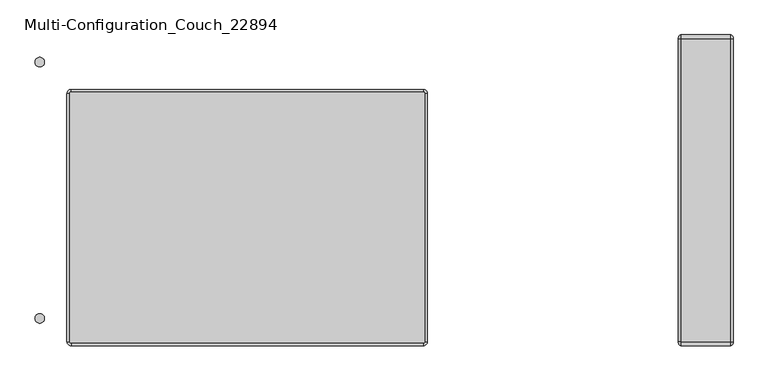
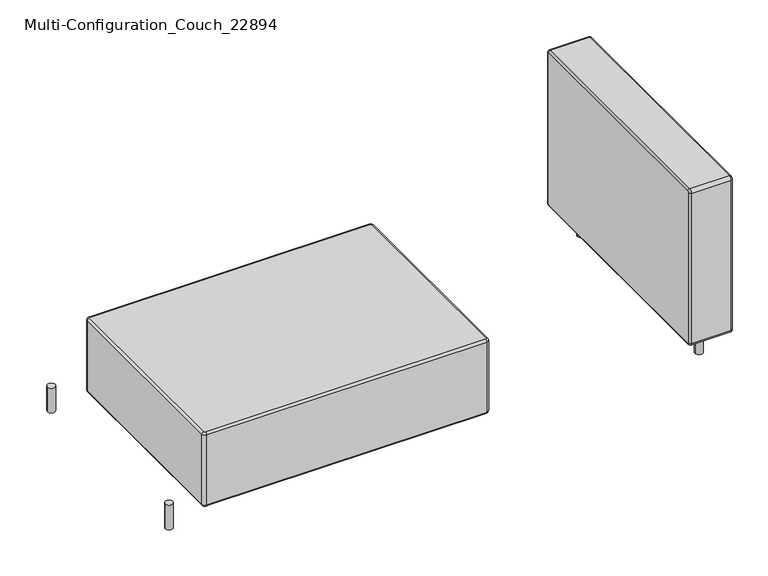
"""IFC4 building model written with IfcOpenShell, lengths in millimetres: furniture geometry, Multi-Configuration_Couch_22894 : Love Seat 2."""

from ifc_helpers import new_model, si_unit, point, frame, frame_2d, origin, origin_with_axes, place, context, project, spatial, circle_curve, ellipse_curve, trimmed, segment, composite_curve, outline, extrude, source, transform, mapped, element, save
from ifc_brep_helpers import plane_surface, cylinder_surface, revolved_surface, advanced_brep


def multi_configuration_couch_22894_094c0ce7(model_context):
    return source(origin(), model_context, "Body", "SolidModel", [
        advanced_brep(
        [(1284.5737705, 822.3770492, 549.275), (1284.5737705, 822.3770492, 85.725), (1284.5737705, 819.2020492, 82.55), (1284.5737705, 114.3520492, 82.55), (1284.5737705, 111.1770492, 85.725), (1284.5737705, 111.1770492, 549.275), (1284.5737705, 114.3520492, 552.45), (1284.5737705, 819.2020492, 552.45), (1411.5737705, 822.3770492, 85.725), (1411.5737705, 822.3770492, 549.275), (1411.5737705, 819.2020492, 552.45), (1411.5737705, 114.3520492, 552.45), (1411.5737705, 111.1770492, 549.275), (1411.5737705, 111.1770492, 85.725), (1411.5737705, 114.3520492, 82.55), (1411.5737705, 819.2020492, 82.55), (1290.9237705, 819.2020492, 558.8), (1290.9237705, 114.3520492, 558.8), (1405.2237705, 114.3520492, 558.8), (1405.2237705, 819.2020492, 558.8), (1290.9237705, 828.7270492, 85.725), (1290.9237705, 828.7270492, 549.275), (1405.2237705, 828.7270492, 549.275), (1405.2237705, 828.7270492, 85.725), (1290.9237705, 114.3520492, 76.2), (1290.9237705, 819.2020492, 76.2), (1405.2237705, 819.2020492, 76.2), (1405.2237705, 114.3520492, 76.2), (1290.9237705, 104.8270492, 549.275), (1290.9237705, 104.8270492, 85.725), (1405.2237705, 104.8270492, 85.725), (1405.2237705, 104.8270492, 549.275)],
        [
            (0, 1),
            (1, 2, circle_curve(frame((1284.5737705, 819.2020492, 85.725), z_axis=(-1.0, 0.0, 0.0), x_axis=(0.0, 1.0, 0.0)), 3.175)),
            (2, 3),
            (3, 4, circle_curve(frame((1284.5737705, 114.3520492, 85.725), z_axis=(-1.0, 0.0, 0.0), x_axis=(0.0, 0.0, -1.0)), 3.175)),
            (4, 5),
            (5, 6, circle_curve(frame((1284.5737705, 114.3520492, 549.275), z_axis=(-1.0, 0.0, 0.0), x_axis=(0.0, -1.0, 0.0)), 3.175)),
            (6, 7),
            (7, 0, circle_curve(frame((1284.5737705, 819.2020492, 549.275), z_axis=(-1.0, 0.0, 0.0), x_axis=(0.0, 0.0, 1.0)), 3.175)),
            (8, 9),
            (9, 10, circle_curve(frame((1411.5737705, 819.2020492, 549.275), z_axis=(1.0, 0.0, 0.0), x_axis=(0.0, 0.0, 1.0)), 3.175)),
            (10, 11),
            (11, 12, circle_curve(frame((1411.5737705, 114.3520492, 549.275), z_axis=(1.0, 0.0, 0.0), x_axis=(0.0, -1.0, 0.0)), 3.175)),
            (12, 13),
            (13, 14, circle_curve(frame((1411.5737705, 114.3520492, 85.725), z_axis=(1.0, 0.0, 0.0), x_axis=(0.0, 0.0, -1.0)), 3.175)),
            (14, 15),
            (15, 8, circle_curve(frame((1411.5737705, 819.2020492, 85.725), z_axis=(1.0, 0.0, 0.0), x_axis=(0.0, 1.0, 0.0)), 3.175)),
            (16, 17),
            (17, 18),
            (18, 19),
            (19, 16),
            (20, 21),
            (21, 22),
            (22, 23),
            (23, 20),
            (24, 25),
            (25, 26),
            (26, 27),
            (27, 24),
            (28, 29),
            (29, 30),
            (30, 31),
            (31, 28),
            (21, 16, circle_curve(frame((1290.9237705, 819.2020492, 549.275), z_axis=(1.0, 0.0, 0.0), x_axis=(0.0, -1.0, 0.0)), 9.525)),
            (19, 22, circle_curve(frame((1405.2237705, 819.2020492, 549.275), z_axis=(-1.0, 0.0, 0.0), x_axis=(0.0, -1.0, 0.0)), 9.525)),
            (17, 28, circle_curve(frame((1290.9237705, 114.3520492, 549.275), z_axis=(1.0, 0.0, 0.0), x_axis=(0.0, -1.0, 0.0)), 9.525)),
            (31, 18, circle_curve(frame((1405.2237705, 114.3520492, 549.275), z_axis=(-1.0, 0.0, 0.0), x_axis=(0.0, -1.0, 0.0)), 9.525)),
            (25, 20, circle_curve(frame((1290.9237705, 819.2020492, 85.725), z_axis=(1.0, 0.0, 0.0), x_axis=(0.0, -1.0, 0.0)), 9.525)),
            (23, 26, circle_curve(frame((1405.2237705, 819.2020492, 85.725), z_axis=(-1.0, 0.0, 0.0), x_axis=(0.0, -1.0, 0.0)), 9.525)),
            (29, 24, circle_curve(frame((1290.9237705, 114.3520492, 85.725), z_axis=(1.0, 0.0, 0.0), x_axis=(0.0, -1.0, 0.0)), 9.525)),
            (27, 30, circle_curve(frame((1405.2237705, 114.3520492, 85.725), z_axis=(-1.0, 0.0, 0.0), x_axis=(0.0, -1.0, 0.0)), 9.525)),
            (20, 1, circle_curve(frame((1290.9237705, 822.3770492, 85.725), z_axis=(0.0, 0.0, 1.0), x_axis=(0.0, -1.0, 0.0)), 6.35)),
            (0, 21, circle_curve(frame((1290.9237705, 822.3770492, 549.275), z_axis=(0.0, 0.0, -1.0), x_axis=(0.0, -1.0, 0.0)), 6.35)),
            (24, 3, circle_curve(frame((1290.9237705, 114.3520492, 82.55), z_axis=(0.0, 1.0, 0.0), x_axis=(0.0, 0.0, 1.0)), 6.35)),
            (2, 25, circle_curve(frame((1290.9237705, 819.2020492, 82.55), z_axis=(0.0, -1.0, 0.0), x_axis=(0.0, 0.0, 1.0)), 6.35)),
            (28, 5, circle_curve(frame((1290.9237705, 111.1770492, 549.275), z_axis=(0.0, 0.0, -1.0), x_axis=(0.0, 1.0, 0.0)), 6.35)),
            (4, 29, circle_curve(frame((1290.9237705, 111.1770492, 85.725), z_axis=(0.0, 0.0, 1.0), x_axis=(0.0, 1.0, 0.0)), 6.35)),
            (17, 6, circle_curve(frame((1290.9237705, 114.3520492, 552.45), z_axis=(0.0, -1.0, 0.0), x_axis=(0.0, 0.0, -1.0)), 6.35)),
            (16, 7, circle_curve(frame((1290.9237705, 819.2020492, 552.45), z_axis=(0.0, -1.0, 0.0), x_axis=(0.0, 0.0, -1.0)), 6.35)),
            (8, 23, circle_curve(frame((1405.2237705, 822.3770492, 85.725), z_axis=(0.0, 0.0, 1.0), x_axis=(0.0, -1.0, 0.0)), 6.35)),
            (22, 9, circle_curve(frame((1405.2237705, 822.3770492, 549.275), z_axis=(0.0, 0.0, -1.0), x_axis=(0.0, -1.0, 0.0)), 6.35)),
            (14, 27, circle_curve(frame((1405.2237705, 114.3520492, 82.55), z_axis=(0.0, 1.0, 0.0), x_axis=(0.0, 0.0, 1.0)), 6.35)),
            (26, 15, circle_curve(frame((1405.2237705, 819.2020492, 82.55), z_axis=(0.0, -1.0, 0.0), x_axis=(0.0, 0.0, 1.0)), 6.35)),
            (12, 31, circle_curve(frame((1405.2237705, 111.1770492, 549.275), z_axis=(0.0, 0.0, -1.0), x_axis=(0.0, 1.0, 0.0)), 6.35)),
            (30, 13, circle_curve(frame((1405.2237705, 111.1770492, 85.725), z_axis=(0.0, 0.0, 1.0), x_axis=(0.0, 1.0, 0.0)), 6.35)),
            (10, 19, circle_curve(frame((1405.2237705, 819.2020492, 552.45), z_axis=(0.0, -1.0, 0.0), x_axis=(0.0, 0.0, -1.0)), 6.35)),
            (18, 11, circle_curve(frame((1405.2237705, 114.3520492, 552.45), z_axis=(0.0, 1.0, 0.0), x_axis=(0.0, 0.0, -1.0)), 6.35)),
        ],
        [
            plane_surface(frame((1284.5737705, 828.7270492, 558.8), z_axis=(-1.0, 0.0, 0.0), x_axis=(0.0, 1.0, 0.0))),
            plane_surface(frame((1411.5737705, 828.7270492, 558.8), z_axis=(1.0, 0.0, 0.0), x_axis=(0.0, -1.0, 0.0))),
            plane_surface(frame((1284.5737705, 104.8270492, 558.8), z_axis=(0.0, 0.0, 1.0), x_axis=(1.0, 0.0, 0.0))),
            plane_surface(frame((1284.5737705, 828.7270492, 558.8), z_axis=(0.0, 1.0, 0.0), x_axis=(1.0, 0.0, 0.0))),
            plane_surface(frame((1284.5737705, 828.7270492, 76.2), z_axis=(0.0, 0.0, -1.0), x_axis=(1.0, 0.0, 0.0))),
            plane_surface(frame((1284.5737705, 104.8270492, 76.2), z_axis=(0.0, -1.0, 0.0), x_axis=(1.0, 0.0, 0.0))),
            cylinder_surface(frame((1411.5737705, 819.2020492, 549.275), z_axis=(1.0, 0.0, 0.0), x_axis=(0.0, -1.0, 0.0)), 9.525),
            cylinder_surface(frame((1411.5737705, 114.3520492, 549.275), z_axis=(1.0, 0.0, 0.0), x_axis=(0.0, -1.0, 0.0)), 9.525),
            cylinder_surface(frame((1411.5737705, 819.2020492, 85.725), z_axis=(1.0, 0.0, 0.0), x_axis=(0.0, -1.0, 0.0)), 9.525),
            cylinder_surface(frame((1411.5737705, 114.3520492, 85.725), z_axis=(1.0, 0.0, 0.0), x_axis=(0.0, -1.0, 0.0)), 9.525),
            cylinder_surface(frame((1290.9237705, 822.3770492, 549.275), z_axis=(0.0, 0.0, -1.0), x_axis=(0.0, -1.0, 0.0)), 6.35),
            cylinder_surface(frame((1290.9237705, 819.2020492, 82.55), z_axis=(0.0, -1.0, 0.0), x_axis=(0.0, 0.0, 1.0)), 6.35),
            cylinder_surface(frame((1290.9237705, 111.1770492, 85.725), z_axis=(0.0, 0.0, 1.0), x_axis=(0.0, 1.0, 0.0)), 6.35),
            revolved_surface(trimmed(ellipse_curve(frame((1290.9237705, 111.1770492, 549.275), z_axis=(0.0, 0.0, -1.0), x_axis=(0.0, 1.0, 0.0)), 6.35, 6.35), [point((1290.9237705, 104.8270492, 549.275))], [point((1284.5737705, 111.1770492, 549.275))], True, "CARTESIAN"), (1284.5737705, 114.3520492, 549.275), (-1.0, 0.0, 0.0)),
            cylinder_surface(frame((1290.9237705, 114.3520492, 552.45), z_axis=(0.0, 1.0, 0.0), x_axis=(0.0, 0.0, -1.0)), 6.35),
            cylinder_surface(frame((1405.2237705, 822.3770492, 549.275), z_axis=(0.0, 0.0, -1.0), x_axis=(0.0, -1.0, 0.0)), 6.35),
            cylinder_surface(frame((1405.2237705, 819.2020492, 82.55), z_axis=(0.0, -1.0, 0.0), x_axis=(0.0, 0.0, 1.0)), 6.35),
            cylinder_surface(frame((1405.2237705, 111.1770492, 85.725), z_axis=(0.0, 0.0, 1.0), x_axis=(0.0, 1.0, 0.0)), 6.35),
            cylinder_surface(frame((1405.2237705, 114.3520492, 552.45), z_axis=(0.0, 1.0, 0.0), x_axis=(0.0, 0.0, -1.0)), 6.35),
            revolved_surface(trimmed(ellipse_curve(frame((1290.9237705, 819.2020492, 552.45), z_axis=(0.0, -1.0, 0.0), x_axis=(0.0, 0.0, -1.0)), 6.35, 6.35), [point((1290.9237705, 819.2020492, 558.8))], [point((1284.5737705, 819.2020492, 552.45))], True, "CARTESIAN"), (1284.5737705, 819.2020492, 549.275), (-1.0, 0.0, 0.0)),
            revolved_surface(trimmed(ellipse_curve(frame((1290.9237705, 822.3770492, 85.725), z_axis=(0.0, 0.0, 1.0), x_axis=(0.0, -1.0, 0.0)), 6.35, 6.35), [point((1290.9237705, 828.7270492, 85.725))], [point((1284.5737705, 822.3770492, 85.725))], True, "CARTESIAN"), (1284.5737705, 819.2020492, 85.725), (-1.0, 0.0, 0.0)),
            revolved_surface(trimmed(ellipse_curve(frame((1290.9237705, 114.3520492, 82.55), z_axis=(0.0, 1.0, 0.0), x_axis=(0.0, 0.0, 1.0)), 6.35, 6.35), [point((1290.9237705, 114.3520492, 76.2))], [point((1284.5737705, 114.3520492, 82.55))], True, "CARTESIAN"), (1284.5737705, 114.3520492, 85.725), (-1.0, 0.0, 0.0)),
            revolved_surface(trimmed(ellipse_curve(frame((1405.2237705, 819.2020492, 552.45), z_axis=(0.0, -1.0, 0.0), x_axis=(0.0, 0.0, -1.0)), 6.35, 6.35), [point((1411.5737705, 819.2020492, 552.45))], [point((1405.2237705, 819.2020492, 558.8))], True, "CARTESIAN"), (1411.5737705, 819.2020492, 549.275), (-1.0, 0.0, 0.0)),
            revolved_surface(trimmed(ellipse_curve(frame((1405.2237705, 822.3770492, 85.725), z_axis=(0.0, 0.0, 1.0), x_axis=(0.0, -1.0, 0.0)), 6.35, 6.35), [point((1411.5737705, 822.3770492, 85.725))], [point((1405.2237705, 828.7270492, 85.725))], True, "CARTESIAN"), (1411.5737705, 819.2020492, 85.725), (-1.0, 0.0, 0.0)),
            revolved_surface(trimmed(ellipse_curve(frame((1405.2237705, 114.3520492, 82.55), z_axis=(0.0, 1.0, 0.0), x_axis=(0.0, 0.0, 1.0)), 6.35, 6.35), [point((1411.5737705, 114.3520492, 82.55))], [point((1405.2237705, 114.3520492, 76.2))], True, "CARTESIAN"), (1411.5737705, 114.3520492, 85.725), (-1.0, 0.0, 0.0)),
            revolved_surface(trimmed(ellipse_curve(frame((1405.2237705, 111.1770492, 549.275), z_axis=(0.0, 0.0, -1.0), x_axis=(0.0, 1.0, 0.0)), 6.35, 6.35), [point((1411.5737705, 111.1770492, 549.275))], [point((1405.2237705, 104.8270492, 549.275))], True, "CARTESIAN"), (1411.5737705, 114.3520492, 549.275), (-1.0, 0.0, 0.0)),
        ],
        [
            (0, [[1, 2, 3, 4, 5, 6, 7, 8]]),
            (1, [[9, 10, 11, 12, 13, 14, 15, 16]]),
            (2, [[17, 18, 19, 20]]),
            (3, [[21, 22, 23, 24]]),
            (4, [[25, 26, 27, 28]]),
            (5, [[29, 30, 31, 32]]),
            (6, [[33, -20, 34, -22]]),
            (7, [[35, -32, 36, -18]]),
            (8, [[37, -24, 38, -26]]),
            (9, [[39, -28, 40, -30]]),
            (10, [[41, -1, 42, -21]]),
            (11, [[43, -3, 44, -25]]),
            (12, [[45, -5, 46, -29]]),
            (13, [[-45, -35, 47, -6]]),
            (14, [[-47, -17, 48, -7]]),
            (15, [[49, -23, 50, -9]]),
            (16, [[51, -27, 52, -15]]),
            (17, [[53, -31, 54, -13]]),
            (18, [[55, -19, 56, -11]]),
            (19, [[-42, -8, -48, -33]]),
            (20, [[-41, -37, -44, -2]]),
            (21, [[-43, -39, -46, -4]]),
            (22, [[-50, -34, -55, -10]]),
            (23, [[-49, -16, -52, -38]]),
            (24, [[-51, -14, -54, -40]]),
            (25, [[-53, -12, -56, -36]]),
        ],
    ),
        advanced_brep(
        [(694.0237705, 114.3520492, 304.8), (694.0237705, 692.2020492, 304.8), (690.8487705, 695.3770492, 304.8), (-128.3012295, 695.3770492, 304.8), (-131.4762295, 692.2020492, 304.8), (-131.4762295, 114.3520492, 304.8), (-128.3012295, 111.1770492, 304.8), (690.8487705, 111.1770492, 304.8), (694.0237705, 692.2020492, 76.2), (694.0237705, 114.3520492, 76.2), (690.8487705, 111.1770492, 76.2), (-128.3012295, 111.1770492, 76.2), (-131.4762295, 114.3520492, 76.2), (-131.4762295, 692.2020492, 76.2), (-128.3012295, 695.3770492, 76.2), (690.8487705, 695.3770492, 76.2), (690.8487705, 104.8270492, 298.45), (-128.3012295, 104.8270492, 298.45), (-128.3012295, 104.8270492, 82.55), (690.8487705, 104.8270492, 82.55), (700.3737705, 692.2020492, 298.45), (700.3737705, 114.3520492, 298.45), (700.3737705, 114.3520492, 82.55), (700.3737705, 692.2020492, 82.55), (-128.3012295, 701.7270492, 298.45), (690.8487705, 701.7270492, 298.45), (690.8487705, 701.7270492, 82.55), (-128.3012295, 701.7270492, 82.55), (-137.8262295, 114.3520492, 298.45), (-137.8262295, 692.2020492, 298.45), (-137.8262295, 692.2020492, 82.55), (-137.8262295, 114.3520492, 82.55)],
        [
            (0, 1),
            (1, 2, circle_curve(frame((690.8487705, 692.2020492, 304.8), z_axis=(0.0, 0.0, 1.0), x_axis=(1.0, 0.0, 0.0)), 3.175)),
            (2, 3),
            (3, 4, circle_curve(frame((-128.3012295, 692.2020492, 304.8), z_axis=(0.0, 0.0, 1.0), x_axis=(0.0, 1.0, 0.0)), 3.175)),
            (4, 5),
            (5, 6, circle_curve(frame((-128.3012295, 114.3520492, 304.8), z_axis=(0.0, 0.0, 1.0), x_axis=(-1.0, 0.0, 0.0)), 3.175)),
            (6, 7),
            (7, 0, circle_curve(frame((690.8487705, 114.3520492, 304.8), z_axis=(0.0, 0.0, 1.0), x_axis=(0.0, -1.0, 0.0)), 3.175)),
            (8, 9),
            (9, 10, circle_curve(frame((690.8487705, 114.3520492, 76.2), z_axis=(0.0, 0.0, -1.0), x_axis=(0.0, -1.0, 0.0)), 3.175)),
            (10, 11),
            (11, 12, circle_curve(frame((-128.3012295, 114.3520492, 76.2), z_axis=(0.0, 0.0, -1.0), x_axis=(-1.0, 0.0, 0.0)), 3.175)),
            (12, 13),
            (13, 14, circle_curve(frame((-128.3012295, 692.2020492, 76.2), z_axis=(0.0, 0.0, -1.0), x_axis=(0.0, 1.0, 0.0)), 3.175)),
            (14, 15),
            (15, 8, circle_curve(frame((690.8487705, 692.2020492, 76.2), z_axis=(0.0, 0.0, -1.0), x_axis=(1.0, 0.0, 0.0)), 3.175)),
            (16, 17),
            (17, 18),
            (18, 19),
            (19, 16),
            (20, 21),
            (21, 22),
            (22, 23),
            (23, 20),
            (24, 25),
            (25, 26),
            (26, 27),
            (27, 24),
            (28, 29),
            (29, 30),
            (30, 31),
            (31, 28),
            (21, 16, circle_curve(frame((690.8487705, 114.3520492, 298.45), z_axis=(0.0, 0.0, -1.0), x_axis=(-1.0, 0.0, 0.0)), 9.525)),
            (19, 22, circle_curve(frame((690.8487705, 114.3520492, 82.55), z_axis=(0.0, 0.0, 1.0), x_axis=(-1.0, 0.0, 0.0)), 9.525)),
            (17, 28, circle_curve(frame((-128.3012295, 114.3520492, 298.45), z_axis=(0.0, 0.0, -1.0), x_axis=(-1.0, 0.0, 0.0)), 9.525)),
            (31, 18, circle_curve(frame((-128.3012295, 114.3520492, 82.55), z_axis=(0.0, 0.0, 1.0), x_axis=(-1.0, 0.0, 0.0)), 9.525)),
            (25, 20, circle_curve(frame((690.8487705, 692.2020492, 298.45), z_axis=(0.0, 0.0, -1.0), x_axis=(-1.0, 0.0, 0.0)), 9.525)),
            (23, 26, circle_curve(frame((690.8487705, 692.2020492, 82.55), z_axis=(0.0, 0.0, 1.0), x_axis=(-1.0, 0.0, 0.0)), 9.525)),
            (29, 24, circle_curve(frame((-128.3012295, 692.2020492, 298.45), z_axis=(0.0, 0.0, -1.0), x_axis=(-1.0, 0.0, 0.0)), 9.525)),
            (27, 30, circle_curve(frame((-128.3012295, 692.2020492, 82.55), z_axis=(0.0, 0.0, 1.0), x_axis=(-1.0, 0.0, 0.0)), 9.525)),
            (20, 1, circle_curve(frame((694.0237705, 692.2020492, 298.45), z_axis=(0.0, -1.0, 0.0), x_axis=(-1.0, 0.0, 0.0)), 6.35)),
            (0, 21, circle_curve(frame((694.0237705, 114.3520492, 298.45), z_axis=(0.0, 1.0, 0.0), x_axis=(-1.0, 0.0, 0.0)), 6.35)),
            (24, 3, circle_curve(frame((-128.3012295, 695.3770492, 298.45), z_axis=(1.0, 0.0, 0.0), x_axis=(0.0, -1.0, 0.0)), 6.35)),
            (2, 25, circle_curve(frame((690.8487705, 695.3770492, 298.45), z_axis=(-1.0, 0.0, 0.0), x_axis=(0.0, -1.0, 0.0)), 6.35)),
            (28, 5, circle_curve(frame((-131.4762295, 114.3520492, 298.45), z_axis=(0.0, 1.0, 0.0), x_axis=(1.0, 0.0, 0.0)), 6.35)),
            (4, 29, circle_curve(frame((-131.4762295, 692.2020492, 298.45), z_axis=(0.0, -1.0, 0.0), x_axis=(1.0, 0.0, 0.0)), 6.35)),
            (17, 6, circle_curve(frame((-128.3012295, 111.1770492, 298.45), z_axis=(-1.0, 0.0, 0.0), x_axis=(0.0, 1.0, 0.0)), 6.35)),
            (16, 7, circle_curve(frame((690.8487705, 111.1770492, 298.45), z_axis=(-1.0, 0.0, 0.0), x_axis=(0.0, 1.0, 0.0)), 6.35)),
            (8, 23, circle_curve(frame((694.0237705, 692.2020492, 82.55), z_axis=(0.0, -1.0, 0.0), x_axis=(-1.0, 0.0, 0.0)), 6.35)),
            (22, 9, circle_curve(frame((694.0237705, 114.3520492, 82.55), z_axis=(0.0, 1.0, 0.0), x_axis=(-1.0, 0.0, 0.0)), 6.35)),
            (14, 27, circle_curve(frame((-128.3012295, 695.3770492, 82.55), z_axis=(1.0, 0.0, 0.0), x_axis=(0.0, -1.0, 0.0)), 6.35)),
            (26, 15, circle_curve(frame((690.8487705, 695.3770492, 82.55), z_axis=(-1.0, 0.0, 0.0), x_axis=(0.0, -1.0, 0.0)), 6.35)),
            (12, 31, circle_curve(frame((-131.4762295, 114.3520492, 82.55), z_axis=(0.0, 1.0, 0.0), x_axis=(1.0, 0.0, 0.0)), 6.35)),
            (30, 13, circle_curve(frame((-131.4762295, 692.2020492, 82.55), z_axis=(0.0, -1.0, 0.0), x_axis=(1.0, 0.0, 0.0)), 6.35)),
            (10, 19, circle_curve(frame((690.8487705, 111.1770492, 82.55), z_axis=(-1.0, 0.0, 0.0), x_axis=(0.0, 1.0, 0.0)), 6.35)),
            (18, 11, circle_curve(frame((-128.3012295, 111.1770492, 82.55), z_axis=(1.0, 0.0, 0.0), x_axis=(0.0, 1.0, 0.0)), 6.35)),
        ],
        [
            plane_surface(frame((700.3737705, 104.8270492, 304.8), z_axis=(0.0, 0.0, 1.0), x_axis=(1.0, 0.0, 0.0))),
            plane_surface(frame((700.3737705, 104.8270492, 76.2), z_axis=(0.0, 0.0, -1.0), x_axis=(-1.0, 0.0, 0.0))),
            plane_surface(frame((-137.8262295, 104.8270492, 304.8), z_axis=(0.0, -1.0, 0.0), x_axis=(0.0, 0.0, -1.0))),
            plane_surface(frame((700.3737705, 104.8270492, 304.8), z_axis=(1.0, 0.0, 0.0), x_axis=(0.0, 0.0, -1.0))),
            plane_surface(frame((700.3737705, 701.7270492, 304.8), z_axis=(0.0, 1.0, 0.0), x_axis=(0.0, 0.0, -1.0))),
            plane_surface(frame((-137.8262295, 701.7270492, 304.8), z_axis=(-1.0, 0.0, 0.0), x_axis=(0.0, 0.0, -1.0))),
            cylinder_surface(frame((690.8487705, 114.3520492, 76.2), z_axis=(0.0, 0.0, -1.0), x_axis=(-1.0, 0.0, 0.0)), 9.525),
            cylinder_surface(frame((-128.3012295, 114.3520492, 76.2), z_axis=(0.0, 0.0, -1.0), x_axis=(-1.0, 0.0, 0.0)), 9.525),
            cylinder_surface(frame((690.8487705, 692.2020492, 76.2), z_axis=(0.0, 0.0, -1.0), x_axis=(-1.0, 0.0, 0.0)), 9.525),
            cylinder_surface(frame((-128.3012295, 692.2020492, 76.2), z_axis=(0.0, 0.0, -1.0), x_axis=(-1.0, 0.0, 0.0)), 9.525),
            cylinder_surface(frame((694.0237705, 114.3520492, 298.45), z_axis=(0.0, 1.0, 0.0), x_axis=(-1.0, 0.0, 0.0)), 6.35),
            cylinder_surface(frame((690.8487705, 695.3770492, 298.45), z_axis=(-1.0, 0.0, 0.0), x_axis=(0.0, -1.0, 0.0)), 6.35),
            cylinder_surface(frame((-131.4762295, 692.2020492, 298.45), z_axis=(0.0, -1.0, 0.0), x_axis=(1.0, 0.0, 0.0)), 6.35),
            revolved_surface(trimmed(ellipse_curve(frame((-131.4762295, 114.3520492, 298.45), z_axis=(0.0, 1.0, 0.0), x_axis=(1.0, 0.0, 0.0)), 6.35, 6.35), [point((-137.8262295, 114.3520492, 298.45))], [point((-131.4762295, 114.3520492, 304.8))], True, "CARTESIAN"), (-128.3012295, 114.3520492, 304.8), (0.0, 0.0, 1.0)),
            cylinder_surface(frame((-128.3012295, 111.1770492, 298.45), z_axis=(1.0, 0.0, 0.0), x_axis=(0.0, 1.0, 0.0)), 6.35),
            cylinder_surface(frame((694.0237705, 114.3520492, 82.55), z_axis=(0.0, 1.0, 0.0), x_axis=(-1.0, 0.0, 0.0)), 6.35),
            cylinder_surface(frame((690.8487705, 695.3770492, 82.55), z_axis=(-1.0, 0.0, 0.0), x_axis=(0.0, -1.0, 0.0)), 6.35),
            cylinder_surface(frame((-131.4762295, 692.2020492, 82.55), z_axis=(0.0, -1.0, 0.0), x_axis=(1.0, 0.0, 0.0)), 6.35),
            cylinder_surface(frame((-128.3012295, 111.1770492, 82.55), z_axis=(1.0, 0.0, 0.0), x_axis=(0.0, 1.0, 0.0)), 6.35),
            revolved_surface(trimmed(ellipse_curve(frame((690.8487705, 111.1770492, 298.45), z_axis=(-1.0, 0.0, 0.0), x_axis=(0.0, 1.0, 0.0)), 6.35, 6.35), [point((690.8487705, 104.8270492, 298.45))], [point((690.8487705, 111.1770492, 304.8))], True, "CARTESIAN"), (690.8487705, 114.3520492, 304.8), (0.0, 0.0, 1.0)),
            revolved_surface(trimmed(ellipse_curve(frame((694.0237705, 692.2020492, 298.45), z_axis=(0.0, -1.0, 0.0), x_axis=(-1.0, 0.0, 0.0)), 6.35, 6.35), [point((700.3737705, 692.2020492, 298.45))], [point((694.0237705, 692.2020492, 304.8))], True, "CARTESIAN"), (690.8487705, 692.2020492, 304.8), (0.0, 0.0, 1.0)),
            revolved_surface(trimmed(ellipse_curve(frame((-128.3012295, 695.3770492, 298.45), z_axis=(1.0, 0.0, 0.0), x_axis=(0.0, -1.0, 0.0)), 6.35, 6.35), [point((-128.3012295, 701.7270492, 298.45))], [point((-128.3012295, 695.3770492, 304.8))], True, "CARTESIAN"), (-128.3012295, 692.2020492, 304.8), (0.0, 0.0, 1.0)),
            revolved_surface(trimmed(ellipse_curve(frame((690.8487705, 111.1770492, 82.55), z_axis=(-1.0, 0.0, 0.0), x_axis=(0.0, 1.0, 0.0)), 6.35, 6.35), [point((690.8487705, 111.1770492, 76.2))], [point((690.8487705, 104.8270492, 82.55))], True, "CARTESIAN"), (690.8487705, 114.3520492, 76.2), (0.0, 0.0, 1.0)),
            revolved_surface(trimmed(ellipse_curve(frame((694.0237705, 692.2020492, 82.55), z_axis=(0.0, -1.0, 0.0), x_axis=(-1.0, 0.0, 0.0)), 6.35, 6.35), [point((694.0237705, 692.2020492, 76.2))], [point((700.3737705, 692.2020492, 82.55))], True, "CARTESIAN"), (690.8487705, 692.2020492, 76.2), (0.0, 0.0, 1.0)),
            revolved_surface(trimmed(ellipse_curve(frame((-128.3012295, 695.3770492, 82.55), z_axis=(1.0, 0.0, 0.0), x_axis=(0.0, -1.0, 0.0)), 6.35, 6.35), [point((-128.3012295, 695.3770492, 76.2))], [point((-128.3012295, 701.7270492, 82.55))], True, "CARTESIAN"), (-128.3012295, 692.2020492, 76.2), (0.0, 0.0, 1.0)),
            revolved_surface(trimmed(ellipse_curve(frame((-131.4762295, 114.3520492, 82.55), z_axis=(0.0, 1.0, 0.0), x_axis=(1.0, 0.0, 0.0)), 6.35, 6.35), [point((-131.4762295, 114.3520492, 76.2))], [point((-137.8262295, 114.3520492, 82.55))], True, "CARTESIAN"), (-128.3012295, 114.3520492, 76.2), (0.0, 0.0, 1.0)),
        ],
        [
            (0, [[1, 2, 3, 4, 5, 6, 7, 8]]),
            (1, [[9, 10, 11, 12, 13, 14, 15, 16]]),
            (2, [[17, 18, 19, 20]]),
            (3, [[21, 22, 23, 24]]),
            (4, [[25, 26, 27, 28]]),
            (5, [[29, 30, 31, 32]]),
            (6, [[33, -20, 34, -22]]),
            (7, [[35, -32, 36, -18]]),
            (8, [[37, -24, 38, -26]]),
            (9, [[39, -28, 40, -30]]),
            (10, [[41, -1, 42, -21]]),
            (11, [[43, -3, 44, -25]]),
            (12, [[45, -5, 46, -29]]),
            (13, [[-45, -35, 47, -6]]),
            (14, [[-47, -17, 48, -7]]),
            (15, [[49, -23, 50, -9]]),
            (16, [[51, -27, 52, -15]]),
            (17, [[53, -31, 54, -13]]),
            (18, [[55, -19, 56, -11]]),
            (19, [[-42, -8, -48, -33]]),
            (20, [[-41, -37, -44, -2]]),
            (21, [[-43, -39, -46, -4]]),
            (22, [[-50, -34, -55, -10]]),
            (23, [[-49, -16, -52, -38]]),
            (24, [[-51, -14, -54, -40]]),
            (25, [[-53, -12, -56, -36]]),
        ],
    ),
        extrude(outline(composite_curve([segment(trimmed(circle_curve(frame_2d((-201.3262295, 765.2270492)), 11.1125), [point((-190.2137295, 765.2270492))], [point((-212.4387295, 765.2270492))], False, "CARTESIAN"), True, "CONTINUOUS"), segment(trimmed(circle_curve(frame_2d((-201.3262295, 765.2270492)), 11.1125), [point((-212.4387295, 765.2270492))], [point((-190.2137295, 765.2270492))], False, "CARTESIAN"), True, "CONTINUOUS")], self_intersect=False)), origin_with_axes(), (0.0, 0.0, 1.0), 76.2),
        extrude(outline(composite_curve([segment(trimmed(circle_curve(frame_2d((-201.3262295, 168.3270492)), 11.1125), [point((-212.4387295, 168.3270492))], [point((-190.2137295, 168.3270492))], False, "CARTESIAN"), True, "CONTINUOUS"), segment(trimmed(circle_curve(frame_2d((-201.3262295, 168.3270492)), 11.1125), [point((-190.2137295, 168.3270492))], [point((-212.4387295, 168.3270492))], False, "CARTESIAN"), True, "CONTINUOUS")], self_intersect=False)), origin_with_axes(), (0.0, 0.0, 1.0), 76.2),
        extrude(outline(composite_curve([segment(trimmed(circle_curve(frame_2d((1348.0737705, 765.2270492)), 11.1125), [point((1359.1862705, 765.2270492))], [point((1336.9612705, 765.2270492))], False, "CARTESIAN"), True, "CONTINUOUS"), segment(trimmed(circle_curve(frame_2d((1348.0737705, 765.2270492)), 11.1125), [point((1336.9612705, 765.2270492))], [point((1359.1862705, 765.2270492))], False, "CARTESIAN"), True, "CONTINUOUS")], self_intersect=False)), origin_with_axes(), (0.0, 0.0, 1.0), 76.2),
        extrude(outline(composite_curve([segment(trimmed(circle_curve(frame_2d((1348.0737705, 168.3270492)), 11.1125), [point((1336.9612705, 168.3270492))], [point((1359.1862705, 168.3270492))], False, "CARTESIAN"), True, "CONTINUOUS"), segment(trimmed(circle_curve(frame_2d((1348.0737705, 168.3270492)), 11.1125), [point((1359.1862705, 168.3270492))], [point((1336.9612705, 168.3270492))], False, "CARTESIAN"), True, "CONTINUOUS")], self_intersect=False)), origin_with_axes(), (0.0, 0.0, 1.0), 76.2),
    ])


if __name__ == "__main__":
    model = new_model("IFC4")
    model_context = context("Model", 3, world=origin())
    ifc_project = project(units=[si_unit("LENGTHUNIT", "METRE", prefix="MILLI")], contexts=[model_context])
    site = spatial("IfcSite", under=ifc_project)
    building = spatial("IfcBuilding", under=site)
    placement = place(None, origin())
    multi_configuration_couch_22894_shape = multi_configuration_couch_22894_094c0ce7(model_context)
    element("IfcFurniture", 1, ObjectType="Multi-Configuration_Couch_22894 : Love Seat 2", at=placement, inside=building, context=model_context, shape_type="MappedRepresentation", body=[
        mapped(multi_configuration_couch_22894_shape, transform((0.0, 0.0, 0.0), x_axis=(1.0, 0.0, 0.0), y_axis=(0.0, 1.0, 0.0), z_axis=(0.0, 0.0, 1.0))),
    ])
    save(model, "model.ifc")
